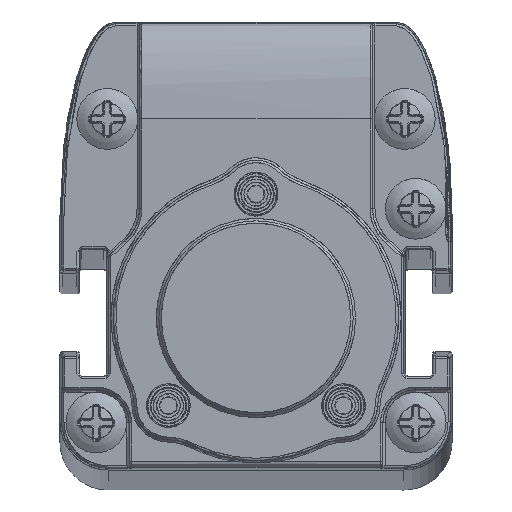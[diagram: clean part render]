
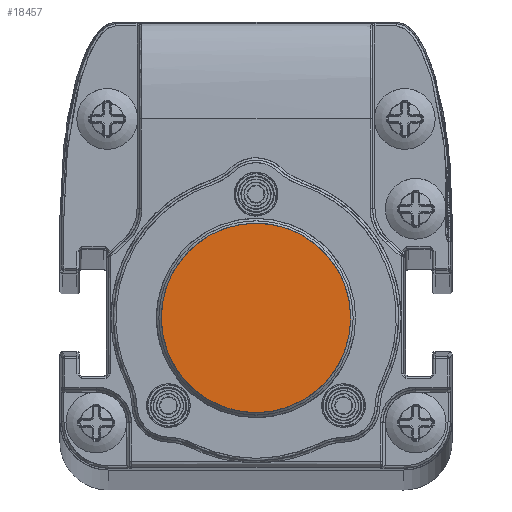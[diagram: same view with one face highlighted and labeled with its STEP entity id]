
A CAD part, top view. The second image highlights one B-rep face of the part: STEP entity #18457.
In plain terms, the highlighted planar face has unit normal (0, 0, 1).
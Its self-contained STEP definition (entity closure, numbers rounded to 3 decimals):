
#15711=B_SPLINE_CURVE_WITH_KNOTS('',3,(#62824,#62825,#62826,#62827,#62828,
#62829,#62830,#62831,#62832,#62833,#62834,#62835,#62836,#62837,#62838,#62839,
#62840,#62841,#62842,#62843,#62844,#62845,#62846,#62847,#62848,#62849,#62850,
#62851,#62852,#62853,#62854,#62855,#62856,#62857,#62858,#62859,#62860,#62861,
#62862,#62863,#62864,#62865,#62866,#62867,#62868,#62869,#62870,#62871,#62872,
#62873,#62874,#62875,#62876,#62877,#62878,#62879,#62880,#62881,#62882,#62883,
#62884,#62885,#62886,#62887,#62888,#62889,#62890,#62891,#62892,#62893,#62894,
#62895,#62896,#62897,#62898,#62899,#62900,#62901,#62902,#62903,#62904,#62905,
#62906,#62907,#62908,#62909,#62910,#62911,#62912,#62913,#62914,#62915,#62916,
#62917,#62918,#62919,#62920,#62921,#62922,#62923,#62924,#62925,#62926),
 .UNSPECIFIED.,.T.,.F.,(1,3,3,3,3,3,3,3,3,3,3,3,3,3,3,3,3,3,3,3,3,3,3,3,
3,3,3,3,3,3,3,3,3,3,3,3,1),(-0.029,0.,0.029,0.059,
0.088,0.118,0.147,0.176,
0.206,0.235,0.265,0.294,
0.324,0.353,0.382,0.412,
0.441,0.471,0.5,0.529,0.559,
0.588,0.618,0.647,0.676,
0.706,0.735,0.765,0.794,
0.824,0.853,0.882,0.912,
0.941,0.971,1.,1.029),.UNSPECIFIED.);
#18457=ADVANCED_FACE('',(#20491),#19433,.T.);
#19433=PLANE('',#44087);
#20491=FACE_OUTER_BOUND('',#21902,.T.);
#21902=EDGE_LOOP('',(#28182));
#28182=ORIENTED_EDGE('',*,*,#37336,.T.);
#32341=VERTEX_POINT('',#62927);
#37336=EDGE_CURVE('',#32341,#32341,#15711,.T.);
#44087=AXIS2_PLACEMENT_3D('',#62928,#47990,#47991);
#47990=DIRECTION('',(0.,0.,1.));
#47991=DIRECTION('',(1.,0.,0.));
#62824=CARTESIAN_POINT('',(7.8,0.,983.24));
#62825=CARTESIAN_POINT('',(7.8,0.465,983.24));
#62826=CARTESIAN_POINT('',(7.759,0.925,983.24));
#62827=CARTESIAN_POINT('',(7.679,1.376,983.24));
#62828=CARTESIAN_POINT('',(7.638,1.601,983.24));
#62829=CARTESIAN_POINT('',(7.588,1.825,983.24));
#62830=CARTESIAN_POINT('',(7.527,2.047,983.24));
#62831=CARTESIAN_POINT('',(7.466,2.269,983.24));
#62832=CARTESIAN_POINT('',(7.407,2.458,983.24));
#62833=CARTESIAN_POINT('',(7.315,2.708,983.24));
#62834=CARTESIAN_POINT('',(7.129,3.209,983.24));
#62835=CARTESIAN_POINT('',(6.898,3.683,983.24));
#62836=CARTESIAN_POINT('',(6.62,4.128,983.24));
#62837=CARTESIAN_POINT('',(6.343,4.573,983.24));
#62838=CARTESIAN_POINT('',(6.043,4.965,983.24));
#62839=CARTESIAN_POINT('',(5.651,5.376,983.24));
#62840=CARTESIAN_POINT('',(4.868,6.2,983.24));
#62841=CARTESIAN_POINT('',(3.912,6.837,983.24));
#62842=CARTESIAN_POINT('',(2.89,7.245,983.24));
#62843=CARTESIAN_POINT('',(2.378,7.449,983.24));
#62844=CARTESIAN_POINT('',(1.856,7.597,983.24));
#62845=CARTESIAN_POINT('',(1.324,7.689,983.24));
#62846=CARTESIAN_POINT('',(1.058,7.734,983.24));
#62847=CARTESIAN_POINT('',(0.79,7.766,983.24));
#62848=CARTESIAN_POINT('',(0.52,7.784,983.24));
#62849=CARTESIAN_POINT('',(0.249,7.801,983.24));
#62850=CARTESIAN_POINT('',(-0.055,7.804,983.24));
#62851=CARTESIAN_POINT('',(-0.3,7.794,983.24));
#62852=CARTESIAN_POINT('',(-0.79,7.775,983.24));
#62853=CARTESIAN_POINT('',(-1.271,7.712,983.24));
#62854=CARTESIAN_POINT('',(-1.742,7.604,983.24));
#62855=CARTESIAN_POINT('',(-2.213,7.496,983.24));
#62856=CARTESIAN_POINT('',(-2.713,7.327,983.24));
#62857=CARTESIAN_POINT('',(-3.123,7.147,983.24));
#62858=CARTESIAN_POINT('',(-3.534,6.968,983.24));
#62859=CARTESIAN_POINT('',(-3.924,6.757,983.24));
#62860=CARTESIAN_POINT('',(-4.293,6.513,983.24));
#62861=CARTESIAN_POINT('',(-4.477,6.392,983.24));
#62862=CARTESIAN_POINT('',(-4.656,6.262,983.24));
#62863=CARTESIAN_POINT('',(-4.83,6.125,983.24));
#62864=CARTESIAN_POINT('',(-5.004,5.987,983.24));
#62865=CARTESIAN_POINT('',(-5.15,5.864,983.24));
#62866=CARTESIAN_POINT('',(-5.337,5.688,983.24));
#62867=CARTESIAN_POINT('',(-5.712,5.337,983.24));
#62868=CARTESIAN_POINT('',(-6.047,4.956,983.24));
#62869=CARTESIAN_POINT('',(-6.341,4.545,983.24));
#62870=CARTESIAN_POINT('',(-6.635,4.134,983.24));
#62871=CARTESIAN_POINT('',(-6.869,3.738,983.24));
#62872=CARTESIAN_POINT('',(-7.102,3.226,983.24));
#62873=CARTESIAN_POINT('',(-7.567,2.203,983.24));
#62874=CARTESIAN_POINT('',(-7.8,1.124,983.24));
#62875=CARTESIAN_POINT('',(-7.8,0.,983.24));
#62876=CARTESIAN_POINT('',(-7.8,-0.562,983.24));
#62877=CARTESIAN_POINT('',(-7.742,-1.113,983.24));
#62878=CARTESIAN_POINT('',(-7.625,-1.651,983.24));
#62879=CARTESIAN_POINT('',(-7.509,-2.189,983.24));
#62880=CARTESIAN_POINT('',(-7.314,-2.758,983.24));
#62881=CARTESIAN_POINT('',(-7.102,-3.226,983.24));
#62882=CARTESIAN_POINT('',(-6.889,-3.694,983.24));
#62883=CARTESIAN_POINT('',(-6.636,-4.134,983.24));
#62884=CARTESIAN_POINT('',(-6.341,-4.544,983.24));
#62885=CARTESIAN_POINT('',(-6.194,-4.75,983.24));
#62886=CARTESIAN_POINT('',(-6.037,-4.947,983.24));
#62887=CARTESIAN_POINT('',(-5.87,-5.138,983.24));
#62888=CARTESIAN_POINT('',(-5.702,-5.329,983.24));
#62889=CARTESIAN_POINT('',(-5.5,-5.535,983.24));
#62890=CARTESIAN_POINT('',(-5.337,-5.688,983.24));
#62891=CARTESIAN_POINT('',(-5.01,-5.995,983.24));
#62892=CARTESIAN_POINT('',(-4.662,-6.27,983.24));
#62893=CARTESIAN_POINT('',(-4.293,-6.513,983.24));
#62894=CARTESIAN_POINT('',(-3.924,-6.756,983.24));
#62895=CARTESIAN_POINT('',(-3.573,-6.951,983.24));
#62896=CARTESIAN_POINT('',(-3.123,-7.147,983.24));
#62897=CARTESIAN_POINT('',(-2.674,-7.344,983.24));
#62898=CARTESIAN_POINT('',(-2.213,-7.496,983.24));
#62899=CARTESIAN_POINT('',(-1.743,-7.604,983.24));
#62900=CARTESIAN_POINT('',(-1.507,-7.658,983.24));
#62901=CARTESIAN_POINT('',(-1.269,-7.701,983.24));
#62902=CARTESIAN_POINT('',(-1.029,-7.732,983.24));
#62903=CARTESIAN_POINT('',(-0.789,-7.764,983.24));
#62904=CARTESIAN_POINT('',(-0.575,-7.784,983.24));
#62905=CARTESIAN_POINT('',(-0.3,-7.794,983.24));
#62906=CARTESIAN_POINT('',(0.801,-7.837,983.24));
#62907=CARTESIAN_POINT('',(1.834,-7.666,983.24));
#62908=CARTESIAN_POINT('',(2.89,-7.245,983.24));
#62909=CARTESIAN_POINT('',(3.417,-7.035,983.24));
#62910=CARTESIAN_POINT('',(3.912,-6.774,983.24));
#62911=CARTESIAN_POINT('',(4.372,-6.462,983.24));
#62912=CARTESIAN_POINT('',(4.833,-6.15,983.24));
#62913=CARTESIAN_POINT('',(5.283,-5.763,983.24));
#62914=CARTESIAN_POINT('',(5.651,-5.376,983.24));
#62915=CARTESIAN_POINT('',(6.019,-4.989,983.24));
#62916=CARTESIAN_POINT('',(6.342,-4.573,983.24));
#62917=CARTESIAN_POINT('',(6.62,-4.128,983.24));
#62918=CARTESIAN_POINT('',(6.759,-3.906,983.24));
#62919=CARTESIAN_POINT('',(6.886,-3.676,983.24));
#62920=CARTESIAN_POINT('',(7.002,-3.44,983.24));
#62921=CARTESIAN_POINT('',(7.117,-3.203,983.24));
#62922=CARTESIAN_POINT('',(7.234,-2.926,983.24));
#62923=CARTESIAN_POINT('',(7.315,-2.708,983.24));
#62924=CARTESIAN_POINT('',(7.638,-1.835,983.24));
#62925=CARTESIAN_POINT('',(7.8,-0.933,983.24));
#62926=CARTESIAN_POINT('',(7.8,0.,983.24));
#62927=CARTESIAN_POINT('',(7.8,0.,983.24));
#62928=CARTESIAN_POINT('',(-8.9,-8.81,983.24));
